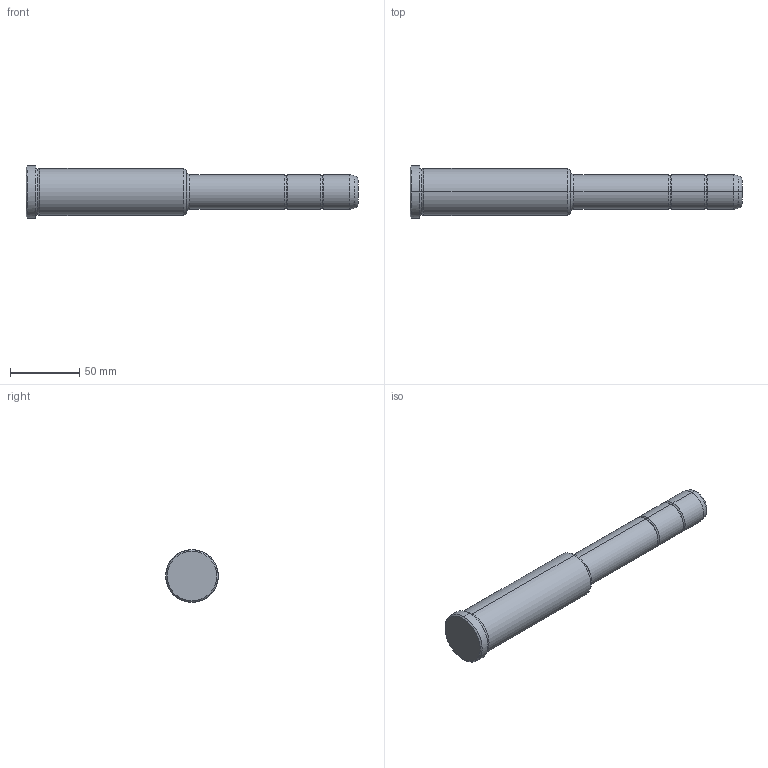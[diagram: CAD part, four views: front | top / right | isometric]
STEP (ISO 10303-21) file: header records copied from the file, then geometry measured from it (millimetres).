
FILE_DESCRIPTION(('CATIA V5 STEP Exchange'),'2;1');
FILE_NAME('C:\Users\Utente\Desktop\IO LAVORO\3D X SITO CF\X SITO\PLASTICA\351\351-25X116X240.stp','2021-09-07T11:52:30+00:00',('none'),('none'),'CATIA Version 5 Release 20 GA (IN-10)','CATIA V5 STEP AP203','none');
FILE_SCHEMA(('CONFIG_CONTROL_DESIGN'));
Length unit declared in the file: millimetre
Products named in the file (1): 351-25X116X240
Bounding box: 240 x 38 x 38 mm (x, y, z)
Volume: 166981.4 mm3; surface area: 24175.6 mm2
Topology: 1 solids, 1 shells, 36 faces, 102 edges, 70 vertices
Faces by surface type: torus 16, cylinder 10, cone 6, plane 4
Entity records: 1292 total; most frequent: CARTESIAN_POINT 321, ORIENTED_EDGE 204, DIRECTION 166, AXIS2_PLACEMENT_3D 115, EDGE_CURVE 102, CIRCLE 78, VERTEX_POINT 70, EDGE_LOOP 38
